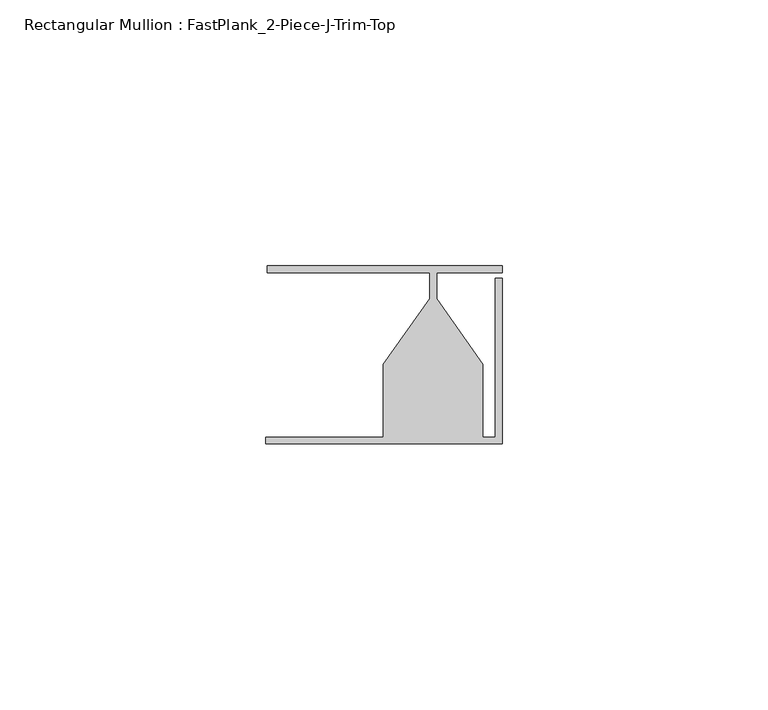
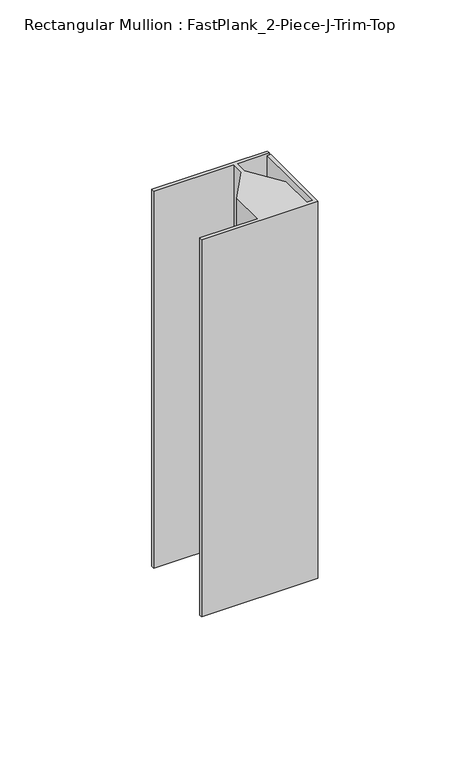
"""IFC4 building model written with IfcOpenShell, lengths in millimetres: member geometry, Rectangular Mullion : FastPlank_2-Piece-J-Trim-Top."""

from ifc_helpers import new_model, si_unit, frame, origin, place, context, project, spatial, polyline, outline, extrude, source, transform, mapped, element, save


def rectangular_mullion_fastplank_2_piece_j_trim_top_9e3a3735(model_context):
    return source(origin(), model_context, "Body", "SweptSolid", [
        extrude(outline(polyline([(0.0, 11.8625052), (0.0, 10.5618154), (-12.3176464, 10.5618154), (-12.3176464, 5.7038113), (-3.6053348, -6.6543757), (-3.6053348, -20.3381228), (-1.2999974, -20.3381228), (-1.2999974, 9.5619969), (0.0, 9.5619969), (0.0, -21.6381202), (-44.4475015, -21.6381202), (-44.4475015, -20.3381228), (-22.3299553, -20.3381228), (-22.3299553, -6.6543757), (-13.6176438, 5.7038113), (-13.6176438, 10.5618154), (-44.2023711, 10.5618154), (-44.2023711, 11.8625052), (0.0, 11.8625052)])), frame((0.0, 0.0, -152.4), z_axis=(0.0, 0.0, 1.0), x_axis=(1.0, 0.0, 0.0)), (0.0, 0.0, 1.0), 152.4),
    ])


if __name__ == "__main__":
    model = new_model("IFC4")
    model_context = context("Model", 3, world=origin())
    ifc_project = project(units=[si_unit("LENGTHUNIT", "METRE", prefix="MILLI")], contexts=[model_context])
    site = spatial("IfcSite", under=ifc_project)
    building = spatial("IfcBuilding", under=site)
    placement = place(None, origin())
    rectangular_mullion_fastplank_2_piece_j_trim_top_shape = rectangular_mullion_fastplank_2_piece_j_trim_top_9e3a3735(model_context)
    element("IfcMember", 1, ObjectType="Rectangular Mullion : FastPlank_2-Piece-J-Trim-Top", at=placement, inside=building, context=model_context, shape_type="MappedRepresentation", body=[
        mapped(rectangular_mullion_fastplank_2_piece_j_trim_top_shape, transform((0.0, 0.0, 0.0), x_axis=(1.0, 0.0, 0.0), y_axis=(0.0, 1.0, 0.0), z_axis=(0.0, 0.0, 1.0))),
    ])
    save(model, "model.ifc")
